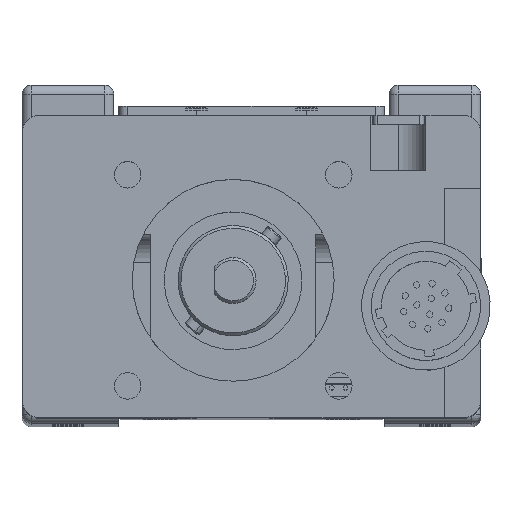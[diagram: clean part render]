
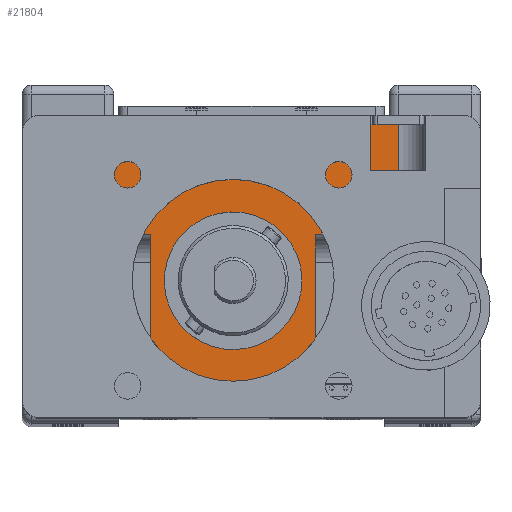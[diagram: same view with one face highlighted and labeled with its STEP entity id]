
A CAD part, top view. The second image highlights one B-rep face of the part: STEP entity #21804.
In plain terms, the highlighted planar face has unit normal (0, 0, 1).
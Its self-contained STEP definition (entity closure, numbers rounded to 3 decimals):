
#55 = FACE_BOUND ( 'NONE', #76180, .T. ) ;
#2663 = DIRECTION ( 'NONE',  ( 1., 0., 0. ) ) ;
#3456 = DIRECTION ( 'NONE',  ( 1., 0., 0. ) ) ;
#4545 = CARTESIAN_POINT ( 'NONE',  ( 7., 20.5, 242. ) ) ;
#4740 = VERTEX_POINT ( 'NONE', #45848 ) ;
#5455 = VECTOR ( 'NONE', #53266, 1000. ) ;
#5480 = DIRECTION ( 'NONE',  ( 0., 0., 1. ) ) ;
#6039 = EDGE_CURVE ( 'NONE', #17346, #36821, #39598, .T. ) ;
#6105 = CARTESIAN_POINT ( 'NONE',  ( -16., 13.5, 242. ) ) ;
#6545 = LINE ( 'NONE', #6105, #55322 ) ;
#6617 = VECTOR ( 'NONE', #10579, 1000. ) ;
#6822 = CIRCLE ( 'NONE', #85321, 7.5 ) ;
#7611 = ORIENTED_EDGE ( 'NONE', *, *, #9050, .F. ) ;
#7792 = DIRECTION ( 'NONE',  ( 0., 0., 1. ) ) ;
#9050 = EDGE_CURVE ( 'NONE', #4740, #44432, #52851, .T. ) ;
#10390 = AXIS2_PLACEMENT_3D ( 'NONE', #37133, #7792, #29656 ) ;
#10579 = DIRECTION ( 'NONE',  ( 0., 1., 0. ) ) ;
#10910 = DIRECTION ( 'NONE',  ( 0., 1., 0. ) ) ;
#13401 = DIRECTION ( 'NONE',  ( -1., 0., 0. ) ) ;
#13655 = ORIENTED_EDGE ( 'NONE', *, *, #36477, .F. ) ;
#14251 = VECTOR ( 'NONE', #82347, 1000. ) ;
#17346 = VERTEX_POINT ( 'NONE', #34649 ) ;
#17951 = CARTESIAN_POINT ( 'NONE',  ( -16., 32.5, 242. ) ) ;
#18752 = VERTEX_POINT ( 'NONE', #86662 ) ;
#21283 = DIRECTION ( 'NONE',  ( 1., 0., 0. ) ) ;
#21804 = ADVANCED_FACE ( 'NONE', ( #55, #56299 ), #54467, .F. ) ;
#22168 = VECTOR ( 'NONE', #21283, 1000. ) ;
#22786 = CARTESIAN_POINT ( 'NONE',  ( -11., 20.5, 242. ) ) ;
#24442 = LINE ( 'NONE', #52795, #72653 ) ;
#27494 = CARTESIAN_POINT ( 'NONE',  ( 16., 13.5, 242. ) ) ;
#27965 = LINE ( 'NONE', #38832, #56791 ) ;
#29656 = DIRECTION ( 'NONE',  ( -1., 0., 0. ) ) ;
#29736 = AXIS2_PLACEMENT_3D ( 'NONE', #27494, #55816, #47952 ) ;
#32642 = CARTESIAN_POINT ( 'NONE',  ( 16., 32.5, 242. ) ) ;
#34649 = CARTESIAN_POINT ( 'NONE',  ( 16., 20.5, 242. ) ) ;
#36477 = EDGE_CURVE ( 'NONE', #56761, #51703, #50438, .T. ) ;
#36821 = VERTEX_POINT ( 'NONE', #58590 ) ;
#37075 = AXIS2_PLACEMENT_3D ( 'NONE', #39359, #61179, #2663 ) ;
#37133 = CARTESIAN_POINT ( 'NONE',  ( -2., 15.5, 242. ) ) ;
#37630 = EDGE_CURVE ( 'NONE', #74141, #44432, #24442, .T. ) ;
#38832 = CARTESIAN_POINT ( 'NONE',  ( -2., 20.5, 242. ) ) ;
#39359 = CARTESIAN_POINT ( 'NONE',  ( -2., 15.5, 242. ) ) ;
#39598 = LINE ( 'NONE', #60965, #14251 ) ;
#41286 = CARTESIAN_POINT ( 'NONE',  ( -2., 15.5, 242. ) ) ;
#43964 = CARTESIAN_POINT ( 'NONE',  ( -8.928, 12.627, 242. ) ) ;
#44432 = VERTEX_POINT ( 'NONE', #22786 ) ;
#45848 = CARTESIAN_POINT ( 'NONE',  ( -11., 9.175, 242. ) ) ;
#45897 = CARTESIAN_POINT ( 'NONE',  ( -11., 20.5, 242. ) ) ;
#47952 = DIRECTION ( 'NONE',  ( -1., 0., 0. ) ) ;
#48056 = ORIENTED_EDGE ( 'NONE', *, *, #60391, .F. ) ;
#50438 = CIRCLE ( 'NONE', #10390, 7.5 ) ;
#51703 = VERTEX_POINT ( 'NONE', #76444 ) ;
#52795 = CARTESIAN_POINT ( 'NONE',  ( -2., 20.5, 242. ) ) ;
#52851 = LINE ( 'NONE', #45897, #6617 ) ;
#52968 = ORIENTED_EDGE ( 'NONE', *, *, #71173, .F. ) ;
#53266 = DIRECTION ( 'NONE',  ( 0., -1., 0. ) ) ;
#54467 = PLANE ( 'NONE',  #29736 ) ;
#55322 = VECTOR ( 'NONE', #10910, 1000. ) ;
#55816 = DIRECTION ( 'NONE',  ( 0., 0., -1. ) ) ;
#55826 = EDGE_LOOP ( 'NONE', ( #48056, #52968, #74273, #7611, #63061, #76896, #60729, #84463 ) ) ;
#56299 = FACE_OUTER_BOUND ( 'NONE', #55826, .T. ) ;
#56761 = VERTEX_POINT ( 'NONE', #43964 ) ;
#56791 = VECTOR ( 'NONE', #3456, 1000. ) ;
#57928 = DIRECTION ( 'NONE',  ( 1., 0., 0. ) ) ;
#58590 = CARTESIAN_POINT ( 'NONE',  ( 16., 32.5, 242. ) ) ;
#59418 = VERTEX_POINT ( 'NONE', #17951 ) ;
#60391 = EDGE_CURVE ( 'NONE', #59418, #36821, #77964, .T. ) ;
#60687 = EDGE_CURVE ( 'NONE', #18752, #4740, #65229, .T. ) ;
#60729 = ORIENTED_EDGE ( 'NONE', *, *, #71177, .T. ) ;
#60965 = CARTESIAN_POINT ( 'NONE',  ( 16., 13.5, 242. ) ) ;
#61139 = LINE ( 'NONE', #80709, #5455 ) ;
#61179 = DIRECTION ( 'NONE',  ( 0., 0., -1. ) ) ;
#63061 = ORIENTED_EDGE ( 'NONE', *, *, #60687, .F. ) ;
#65229 = CIRCLE ( 'NONE', #37075, 11. ) ;
#66412 = ORIENTED_EDGE ( 'NONE', *, *, #88334, .F. ) ;
#68176 = EDGE_CURVE ( 'NONE', #72606, #18752, #61139, .T. ) ;
#71173 = EDGE_CURVE ( 'NONE', #74141, #59418, #6545, .T. ) ;
#71177 = EDGE_CURVE ( 'NONE', #72606, #17346, #27965, .T. ) ;
#71472 = CARTESIAN_POINT ( 'NONE',  ( -16., 20.5, 242. ) ) ;
#72606 = VERTEX_POINT ( 'NONE', #4545 ) ;
#72653 = VECTOR ( 'NONE', #57928, 1000. ) ;
#74141 = VERTEX_POINT ( 'NONE', #71472 ) ;
#74273 = ORIENTED_EDGE ( 'NONE', *, *, #37630, .T. ) ;
#76180 = EDGE_LOOP ( 'NONE', ( #13655, #66412 ) ) ;
#76444 = CARTESIAN_POINT ( 'NONE',  ( 4.928, 18.373, 242. ) ) ;
#76896 = ORIENTED_EDGE ( 'NONE', *, *, #68176, .F. ) ;
#77964 = LINE ( 'NONE', #32642, #22168 ) ;
#80709 = CARTESIAN_POINT ( 'NONE',  ( 7., 20.5, 242. ) ) ;
#82347 = DIRECTION ( 'NONE',  ( 0., 1., 0. ) ) ;
#84463 = ORIENTED_EDGE ( 'NONE', *, *, #6039, .T. ) ;
#85321 = AXIS2_PLACEMENT_3D ( 'NONE', #41286, #5480, #13401 ) ;
#86662 = CARTESIAN_POINT ( 'NONE',  ( 7., 9.175, 242. ) ) ;
#88334 = EDGE_CURVE ( 'NONE', #51703, #56761, #6822, .T. ) ;
